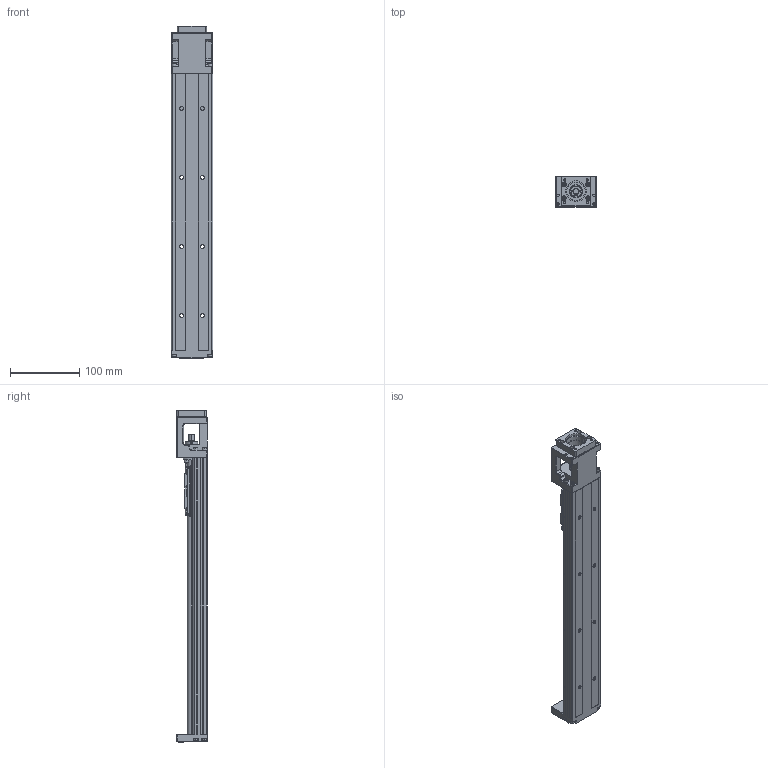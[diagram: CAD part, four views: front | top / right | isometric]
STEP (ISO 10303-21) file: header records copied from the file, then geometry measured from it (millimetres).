
FILE_DESCRIPTION (( 'STEP AP214' ), '1' );
FILE_NAME ('7.0118 KT6010C-400A1-F1.STEP', '2026-03-17T11:30:17', ( '' ), ( '' ), 'SwSTEP 2.0', 'SolidWorks 2025', '' );
FILE_SCHEMA (( 'AUTOMOTIVE_DESIGN' ));
Length unit declared in the file: millimetre
Products named in the file (4): 7.0118 KT6010C-400A1-F1; KT-60-F1 Delta 100W motor plate; KT60-K0_400; KT60-A1
Assembly tree (3 placements, depth 2):
  7.0118 KT6010C-400A1-F1
    KT60-K0_400
    KT60-A1
    KT-60-F1 Delta 100W motor plate
Bounding box: 60 x 44.5 x 480.2 mm (x, y, z)
Volume: 473644.1 mm3; surface area: 157600.8 mm2
Topology: 22 solids, 22 shells, 1408 faces, 3713 edges, 2373 vertices
Faces by surface type: plane 687, cylinder 518, cone 108, torus 63, bspline 17, sphere 15
Entity records: 61770 total; most frequent: CARTESIAN_POINT 12254, DIRECTION 7459, ORIENTED_EDGE 7316, EDGE_CURVE 3658, AXIS2_PLACEMENT_3D 2625, VERTEX_POINT 2373, VECTOR 2209, LINE 2209
